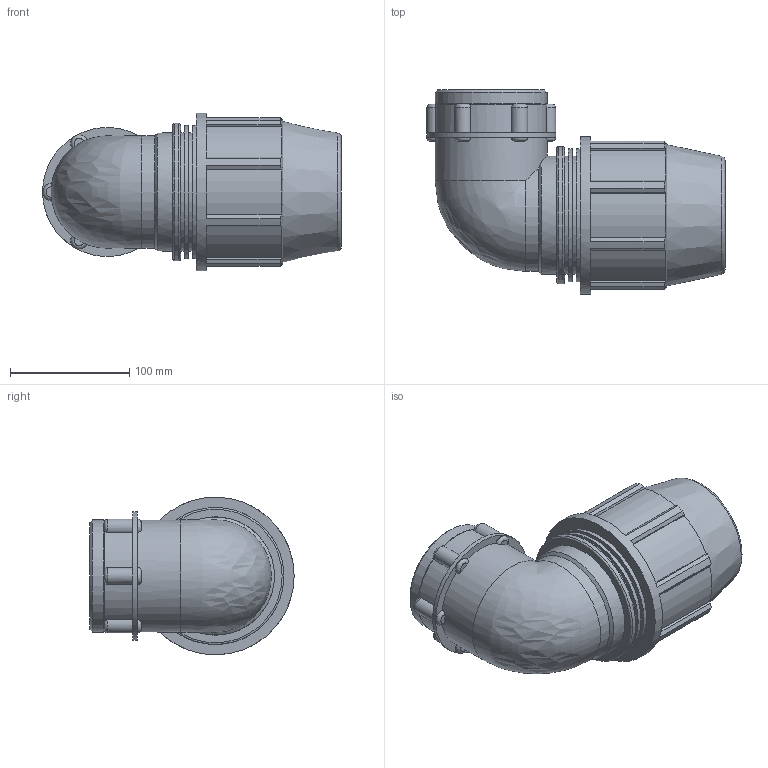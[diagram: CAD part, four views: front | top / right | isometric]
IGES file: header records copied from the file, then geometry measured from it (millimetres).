
Global section: file name: 871500075025_181500075025.ipt; native system: Autodesk Inventor 2015; preprocessor: unknown; author: KIM; date: 20170608.042606; units: millimetre
Bounding box: 249.99 x 171 x 132 mm (x, y, z)
Volume: 1468746.1 mm3; surface area: 195418 mm2
Topology: 1 solids, 1 shells, 138 faces, 373 edges, 244 vertices
Faces by surface type: plane 71, cylinder 37, revolution 22, cone 6, bspline 2
Full cylindrical faces by diameter (mm): 93.894 x2, 99 x3, 107.978 x1, 111.395 x2, 114.84 x1, 132 x1
